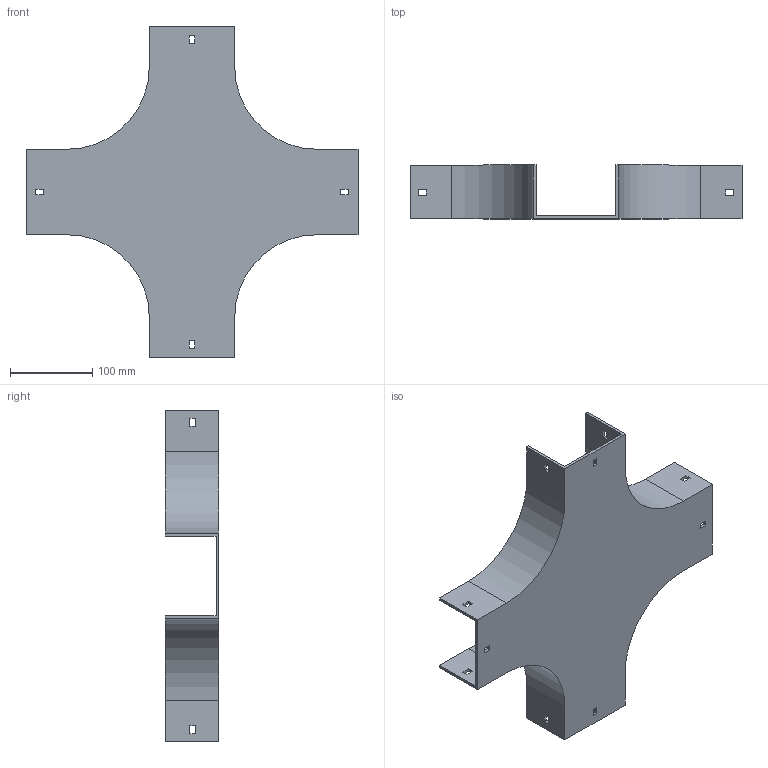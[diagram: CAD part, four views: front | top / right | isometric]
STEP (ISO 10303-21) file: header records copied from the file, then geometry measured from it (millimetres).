
FILE_DESCRIPTION (( 'STEP AP214' ), '1' );
FILE_NAME ('17B1H100.step', '2025-02-21T09:57:37', ( '' ), ( '' ), 'SwSTEP 2.0', 'SolidWorks 2023', '' );
FILE_SCHEMA (( 'AUTOMOTIVE_DESIGN' ));
Length unit declared in the file: millimetre
Products named in the file (1): 17B1H100
Bounding box: 404 x 65.5 x 404 mm (x, y, z)
Volume: 509052.4 mm3; surface area: 299064.2 mm2
Topology: 1 solids, 1 shells, 82 faces, 240 edges, 160 vertices
Faces by surface type: plane 74, cylinder 8
Entity records: 2751 total; most frequent: CARTESIAN_POINT 483, ORIENTED_EDGE 480, DIRECTION 422, EDGE_CURVE 240, VECTOR 224, LINE 224, VERTEX_POINT 160, EDGE_LOOP 106
